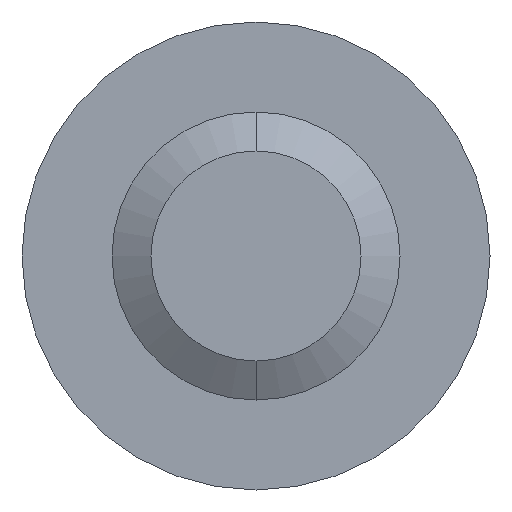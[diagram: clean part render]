
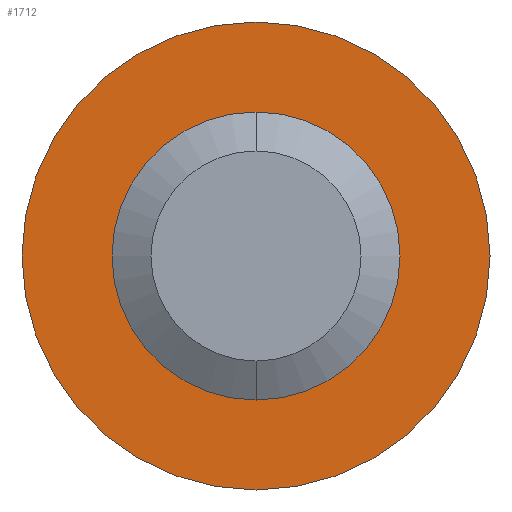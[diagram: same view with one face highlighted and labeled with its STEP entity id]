
A CAD part, front view. The second image highlights one B-rep face of the part: STEP entity #1712.
In plain terms, the highlighted planar face has unit normal (0, -1, 0).
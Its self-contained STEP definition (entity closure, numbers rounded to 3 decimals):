
#42 = CIRCLE ( 'NONE', #3113, 4. ) ;
#100 = EDGE_LOOP ( 'NONE', ( #762, #2745 ) ) ;
#142 = CARTESIAN_POINT ( 'NONE',  ( 0., 30., 0. ) ) ;
#172 = PLANE ( 'NONE',  #368 ) ;
#217 = DIRECTION ( 'NONE',  ( 0., 1., 0. ) ) ;
#365 = EDGE_CURVE ( 'NONE', #2374, #2601, #2404, .T. ) ;
#368 = AXIS2_PLACEMENT_3D ( 'NONE', #1956, #739, #2178 ) ;
#385 = DIRECTION ( 'NONE',  ( 0., 0., 1. ) ) ;
#453 = DIRECTION ( 'NONE',  ( 0., 1., 0. ) ) ;
#489 = CIRCLE ( 'NONE', #1840, 6.5 ) ;
#559 = CARTESIAN_POINT ( 'NONE',  ( 0., 30., -6.5 ) ) ;
#632 = CIRCLE ( 'NONE', #1562, 4. ) ;
#645 = EDGE_CURVE ( 'NONE', #1987, #1311, #42, .T. ) ;
#739 = DIRECTION ( 'NONE',  ( 0., 1., 0. ) ) ;
#762 = ORIENTED_EDGE ( 'NONE', *, *, #3041, .T. ) ;
#917 = EDGE_CURVE ( 'NONE', #2601, #2374, #489, .T. ) ;
#922 = DIRECTION ( 'NONE',  ( 0., 0., 1. ) ) ;
#1033 = CARTESIAN_POINT ( 'NONE',  ( 0., 30., 0. ) ) ;
#1216 = ORIENTED_EDGE ( 'NONE', *, *, #365, .F. ) ;
#1310 = ORIENTED_EDGE ( 'NONE', *, *, #917, .F. ) ;
#1311 = VERTEX_POINT ( 'NONE', #1650 ) ;
#1364 = EDGE_LOOP ( 'NONE', ( #1216, #1310 ) ) ;
#1432 = FACE_OUTER_BOUND ( 'NONE', #1364, .T. ) ;
#1536 = DIRECTION ( 'NONE',  ( 0., 0., 1. ) ) ;
#1562 = AXIS2_PLACEMENT_3D ( 'NONE', #1834, #2575, #385 ) ;
#1650 = CARTESIAN_POINT ( 'NONE',  ( 0., 30., -4. ) ) ;
#1712 = ADVANCED_FACE ( 'NONE', ( #1432, #2663 ), #172, .F. ) ;
#1834 = CARTESIAN_POINT ( 'NONE',  ( 0., 30., 0. ) ) ;
#1840 = AXIS2_PLACEMENT_3D ( 'NONE', #142, #217, #1935 ) ;
#1909 = CARTESIAN_POINT ( 'NONE',  ( 0., 30., 6.5 ) ) ;
#1935 = DIRECTION ( 'NONE',  ( 0., 0., 1. ) ) ;
#1956 = CARTESIAN_POINT ( 'NONE',  ( 0., 30., 0. ) ) ;
#1987 = VERTEX_POINT ( 'NONE', #2554 ) ;
#2178 = DIRECTION ( 'NONE',  ( 0., 0., 1. ) ) ;
#2374 = VERTEX_POINT ( 'NONE', #559 ) ;
#2404 = CIRCLE ( 'NONE', #2824, 6.5 ) ;
#2554 = CARTESIAN_POINT ( 'NONE',  ( 0., 30., 4. ) ) ;
#2575 = DIRECTION ( 'NONE',  ( 0., 1., 0. ) ) ;
#2601 = VERTEX_POINT ( 'NONE', #1909 ) ;
#2653 = CARTESIAN_POINT ( 'NONE',  ( 0., 30., 0. ) ) ;
#2663 = FACE_BOUND ( 'NONE', #100, .T. ) ;
#2745 = ORIENTED_EDGE ( 'NONE', *, *, #645, .T. ) ;
#2815 = DIRECTION ( 'NONE',  ( 0., 1., 0. ) ) ;
#2824 = AXIS2_PLACEMENT_3D ( 'NONE', #2653, #453, #922 ) ;
#3041 = EDGE_CURVE ( 'NONE', #1311, #1987, #632, .T. ) ;
#3113 = AXIS2_PLACEMENT_3D ( 'NONE', #1033, #2815, #1536 ) ;
